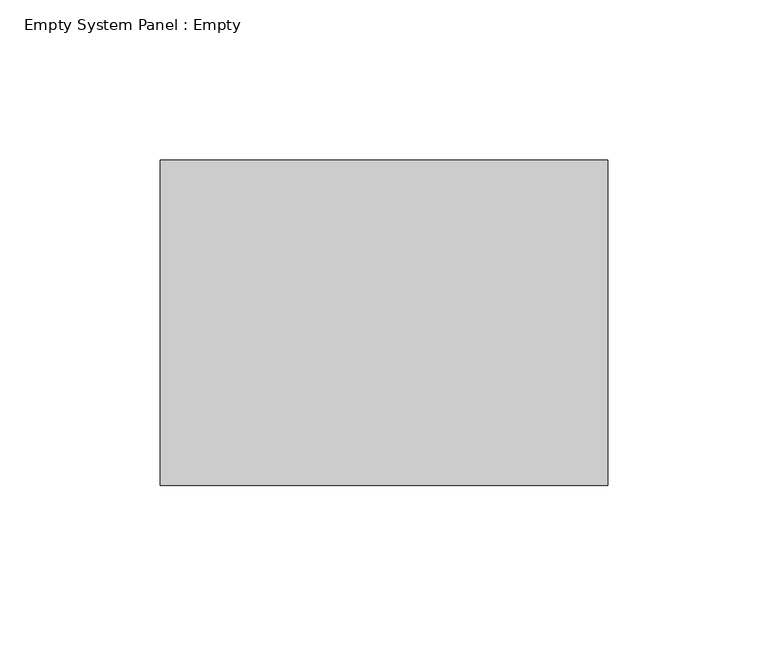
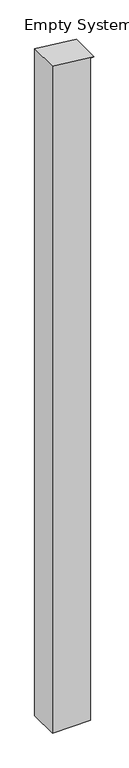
"""IFC4 building model written with IfcOpenShell, lengths in millimetres: plate geometry, Empty System Panel : Empty."""

from ifc_helpers import new_model, si_unit, frame, origin, place, context, project, spatial, polyline, outline, extrude, source, transform, mapped, element, save


def empty_system_panel_empty_066e526f(model_context):
    return source(origin(), model_context, "Body", "SweptSolid", [
        extrude(outline(polyline([(0.0, -69.85), (0.0, 57.15), (2332.2608074, 57.15), (2332.2608074, 69.85), (2347.8859974, -69.85), (0.0, -69.85)])), frame((0.0, -50.8, 0.0), z_axis=(0.0, 1.0, 0.0), x_axis=(0.0, 0.0, 1.0)), (0.0, 0.0, 1.0), 101.6),
    ])


if __name__ == "__main__":
    model = new_model("IFC4")
    model_context = context("Model", 3, world=origin())
    ifc_project = project(units=[si_unit("LENGTHUNIT", "METRE", prefix="MILLI")], contexts=[model_context])
    site = spatial("IfcSite", under=ifc_project)
    building = spatial("IfcBuilding", under=site)
    placement = place(None, origin())
    empty_system_panel_empty_shape = empty_system_panel_empty_066e526f(model_context)
    element("IfcPlate", 1, ObjectType="Empty System Panel : Empty", at=placement, inside=building, context=model_context, shape_type="MappedRepresentation", body=[
        mapped(empty_system_panel_empty_shape, transform((0.0, 0.0, 0.0), x_axis=(1.0, 0.0, 0.0), y_axis=(0.0, 1.0, 0.0), z_axis=(0.0, 0.0, 1.0))),
    ])
    save(model, "model.ifc")
